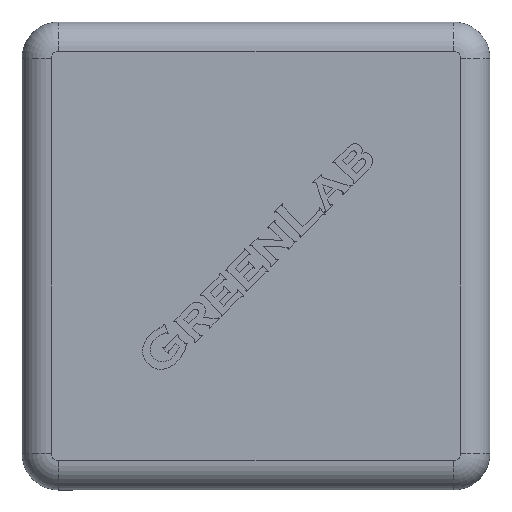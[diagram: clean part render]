
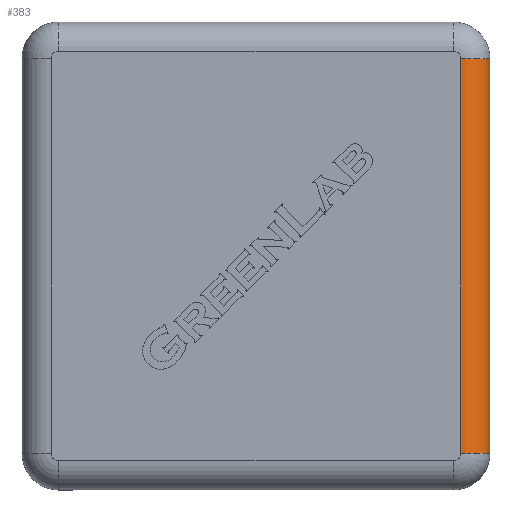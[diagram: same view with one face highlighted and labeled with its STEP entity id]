
A CAD part, top view. The second image highlights one B-rep face of the part: STEP entity #383.
In plain terms, the highlighted cylindrical face has radius 2 mm (diameter 4 mm), a partial arc.
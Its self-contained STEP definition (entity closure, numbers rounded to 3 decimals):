
#35 = AXIS2_PLACEMENT_3D ( 'NONE', #6272, #9882, #5695 ) ;
#162 = DIRECTION ( 'NONE',  ( 0., 1., 0. ) ) ;
#383 = ADVANCED_FACE ( 'NONE', ( #4658 ), #3891, .T. ) ;
#518 = AXIS2_PLACEMENT_3D ( 'NONE', #3834, #2999, #604 ) ;
#589 = EDGE_CURVE ( 'NONE', #9556, #3325, #4335, .T. ) ;
#604 = DIRECTION ( 'NONE',  ( 0., 0., 1. ) ) ;
#850 = CIRCLE ( 'NONE', #518, 2. ) ;
#1278 = ORIENTED_EDGE ( 'NONE', *, *, #589, .F. ) ;
#1461 = EDGE_LOOP ( 'NONE', ( #3005, #6935, #3999, #1278 ) ) ;
#2179 = CARTESIAN_POINT ( 'NONE',  ( 22.5, 20., 1. ) ) ;
#2594 = CARTESIAN_POINT ( 'NONE',  ( 20.5, -7., 3. ) ) ;
#2616 = VERTEX_POINT ( 'NONE', #5265 ) ;
#2702 = VECTOR ( 'NONE', #2716, 1000. ) ;
#2716 = DIRECTION ( 'NONE',  ( 0., 1., 0. ) ) ;
#2999 = DIRECTION ( 'NONE',  ( 0., 1., 0. ) ) ;
#3005 = ORIENTED_EDGE ( 'NONE', *, *, #3917, .T. ) ;
#3325 = VERTEX_POINT ( 'NONE', #8284 ) ;
#3513 = VECTOR ( 'NONE', #10244, 1000. ) ;
#3834 = CARTESIAN_POINT ( 'NONE',  ( 20.5, -7., 1. ) ) ;
#3891 = CYLINDRICAL_SURFACE ( 'NONE', #35, 2. ) ;
#3917 = EDGE_CURVE ( 'NONE', #9556, #2616, #850, .T. ) ;
#3999 = ORIENTED_EDGE ( 'NONE', *, *, #8066, .F. ) ;
#4283 = CARTESIAN_POINT ( 'NONE',  ( 20.5, 0., 3. ) ) ;
#4335 = LINE ( 'NONE', #4283, #2702 ) ;
#4658 = FACE_OUTER_BOUND ( 'NONE', #1461, .T. ) ;
#5265 = CARTESIAN_POINT ( 'NONE',  ( 22.5, -7., 1. ) ) ;
#5483 = EDGE_CURVE ( 'NONE', #10241, #2616, #6304, .T. ) ;
#5695 = DIRECTION ( 'NONE',  ( 0., 0., 1. ) ) ;
#6272 = CARTESIAN_POINT ( 'NONE',  ( 20.5, 0., 1. ) ) ;
#6304 = LINE ( 'NONE', #8553, #3513 ) ;
#6935 = ORIENTED_EDGE ( 'NONE', *, *, #5483, .F. ) ;
#7519 = AXIS2_PLACEMENT_3D ( 'NONE', #9855, #162, #9700 ) ;
#8066 = EDGE_CURVE ( 'NONE', #3325, #10241, #8183, .T. ) ;
#8183 = CIRCLE ( 'NONE', #7519, 2. ) ;
#8284 = CARTESIAN_POINT ( 'NONE',  ( 20.5, 20., 3. ) ) ;
#8553 = CARTESIAN_POINT ( 'NONE',  ( 22.5, -9.5, 1. ) ) ;
#9556 = VERTEX_POINT ( 'NONE', #2594 ) ;
#9700 = DIRECTION ( 'NONE',  ( 0., 0., 1. ) ) ;
#9855 = CARTESIAN_POINT ( 'NONE',  ( 20.5, 20., 1. ) ) ;
#9882 = DIRECTION ( 'NONE',  ( 0., 1., 0. ) ) ;
#10241 = VERTEX_POINT ( 'NONE', #2179 ) ;
#10244 = DIRECTION ( 'NONE',  ( 0., -1., 0. ) ) ;
